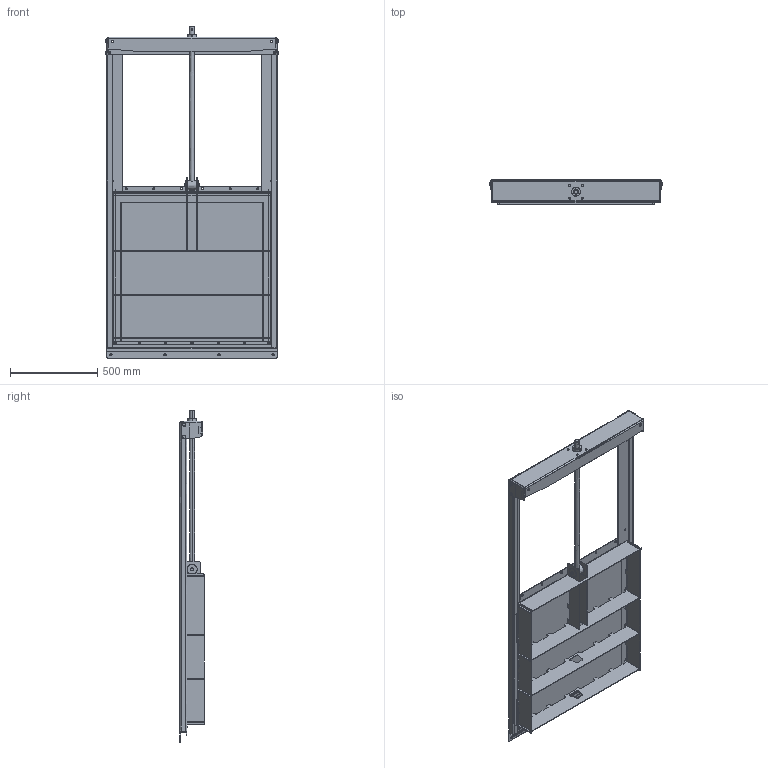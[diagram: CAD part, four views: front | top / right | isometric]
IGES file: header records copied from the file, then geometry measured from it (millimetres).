
Start section: SolidWorks IGES file using analytic representation for surfaces
Global section: file name: C:\Users\k.gigout\Desktop\3D\800x800\VGM620X-00EP0800.IGS; native system: SolidWorks 2017; preprocessor: SolidWorks 2017; author: k.gigout; date: 200410.114936; units: millimetre
Bounding box: 996.8 x 139 x 1904 mm (x, y, z)
Surface area: 6109872.5 mm2 (no closed solid volume)
Topology: 0 solids, 0 shells, 2984 faces, 37530 edges, 37522 vertices
Faces by surface type: bspline 1575, revolution 1409
